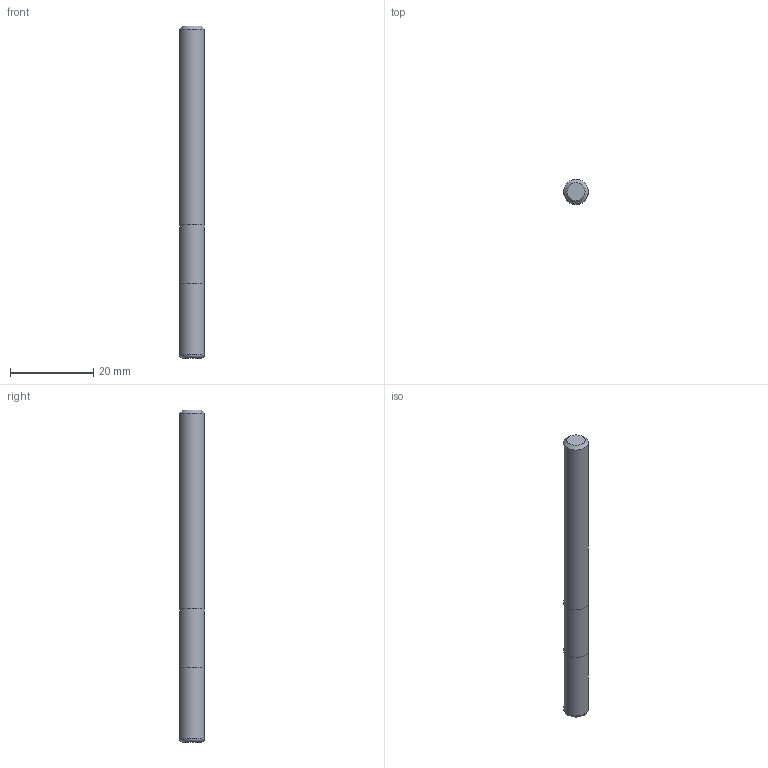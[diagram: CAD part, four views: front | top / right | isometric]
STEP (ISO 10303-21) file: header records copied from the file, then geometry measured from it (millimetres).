
FILE_DESCRIPTION((''),'2;1');
FILE_NAME('C:\Users\nsx150\AppData\Local\Temp\Mastercam 2021\03UJLO2QV3\TEMP.step','2023-09-20T09:29:54',(''),(''),'STEP Write','Mastercam 2021 ... CNC Software, Inc.','');
FILE_SCHEMA(('AUTOMOTIVE_DESIGN'));
Length unit declared in the file: millimetre
Products named in the file (1): None
Bounding box: 6 x 6 x 80 mm (x, y, z)
Volume: 2254 mm3; surface area: 1604.6 mm2
Topology: 2 solids, 2 shells, 9 faces, 12 edges, 7 vertices
Faces by surface type: plane 4, cylinder 3, torus 1, cone 1
Full cylindrical faces by diameter (mm): 6 x3
Entity records: 211 total; most frequent: DIRECTION 36, CARTESIAN_POINT 25, AXIS2_PLACEMENT_3D 18, ORIENTED_EDGE 14, EDGE_LOOP 14, STYLED_ITEM 12, ADVANCED_FACE 9, FACE_BOUND 9
